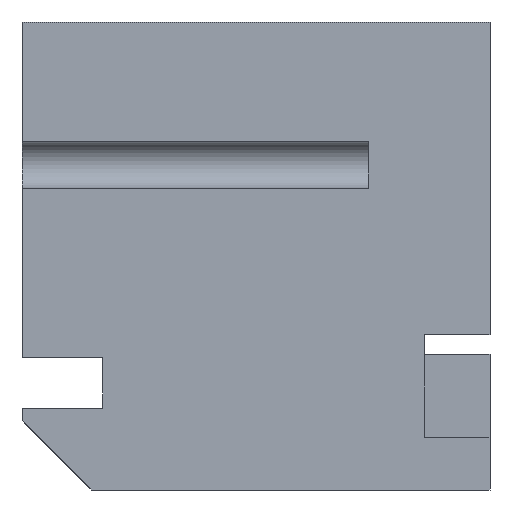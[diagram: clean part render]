
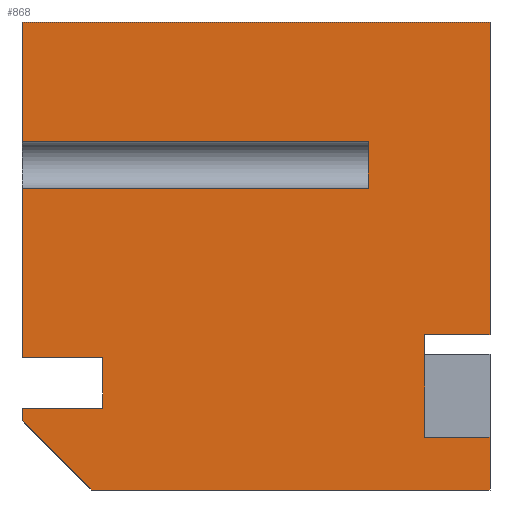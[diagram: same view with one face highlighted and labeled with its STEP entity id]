
A CAD part, front view. The second image highlights one B-rep face of the part: STEP entity #868.
In plain terms, the highlighted planar face has unit normal (0, -1, 0).
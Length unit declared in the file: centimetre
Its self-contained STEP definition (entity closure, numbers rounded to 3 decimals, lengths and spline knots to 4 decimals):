
#15 = VECTOR ( 'NONE', #972, 100. ) ;
#16 = CARTESIAN_POINT ( 'NONE',  ( 0., 0., 1000. ) ) ;
#21 = EDGE_CURVE ( 'NONE', #1506, #1370, #1288, .T. ) ;
#28 = CARTESIAN_POINT ( 'NONE',  ( 1000., 0., 1000. ) ) ;
#58 = EDGE_LOOP ( 'NONE', ( #401, #193, #862, #1095, #1038, #185, #646, #1392, #1259, #1244, #1514, #597, #1550, #1442, #85, #648, #135 ) ) ;
#85 = ORIENTED_EDGE ( 'NONE', *, *, #867, .T. ) ;
#115 = CARTESIAN_POINT ( 'NONE',  ( 1000., 0., 1000. ) ) ;
#124 = CARTESIAN_POINT ( 'NONE',  ( 0., 0., 1000. ) ) ;
#132 = CARTESIAN_POINT ( 'NONE',  ( 860.205, 0., 112.7433 ) ) ;
#135 = ORIENTED_EDGE ( 'NONE', *, *, #1249, .F. ) ;
#153 = DIRECTION ( 'NONE',  ( 0., 0., -1. ) ) ;
#157 = VECTOR ( 'NONE', #1346, 100. ) ;
#159 = EDGE_CURVE ( 'NONE', #929, #300, #1554, .T. ) ;
#170 = LINE ( 'NONE', #28, #355 ) ;
#185 = ORIENTED_EDGE ( 'NONE', *, *, #159, .F. ) ;
#192 = EDGE_CURVE ( 'NONE', #322, #691, #1499, .T. ) ;
#193 = ORIENTED_EDGE ( 'NONE', *, *, #1126, .F. ) ;
#229 = DIRECTION ( 'NONE',  ( 1., 0., 0. ) ) ;
#232 = EDGE_CURVE ( 'NONE', #1445, #300, #735, .T. ) ;
#234 = CARTESIAN_POINT ( 'NONE',  ( 1000., 0., 1000. ) ) ;
#237 = VERTEX_POINT ( 'NONE', #115 ) ;
#249 = CARTESIAN_POINT ( 'NONE',  ( 0., 0., 0. ) ) ;
#267 = VERTEX_POINT ( 'NONE', #849 ) ;
#271 = VERTEX_POINT ( 'NONE', #629 ) ;
#292 = CARTESIAN_POINT ( 'NONE',  ( 0., 0., 147.512 ) ) ;
#300 = VERTEX_POINT ( 'NONE', #498 ) ;
#304 = VERTEX_POINT ( 'NONE', #996 ) ;
#308 = CARTESIAN_POINT ( 'NONE',  ( 1000., 0., 331.7119 ) ) ;
#322 = VERTEX_POINT ( 'NONE', #1034 ) ;
#343 = EDGE_CURVE ( 'NONE', #237, #1568, #170, .T. ) ;
#353 = CARTESIAN_POINT ( 'NONE',  ( 0., 0., 1000. ) ) ;
#355 = VECTOR ( 'NONE', #153, 100. ) ;
#359 = EDGE_CURVE ( 'NONE', #929, #416, #1019, .T. ) ;
#364 = LINE ( 'NONE', #249, #1169 ) ;
#368 = LINE ( 'NONE', #234, #1324 ) ;
#374 = DIRECTION ( 'NONE',  ( 0., 1., 0. ) ) ;
#377 = VERTEX_POINT ( 'NONE', #1142 ) ;
#390 = LINE ( 'NONE', #1016, #603 ) ;
#401 = ORIENTED_EDGE ( 'NONE', *, *, #192, .F. ) ;
#416 = VERTEX_POINT ( 'NONE', #516 ) ;
#422 = CARTESIAN_POINT ( 'NONE',  ( 739.5079, 0., 1000. ) ) ;
#462 = DIRECTION ( 'NONE',  ( -1., 0., 0. ) ) ;
#470 = DIRECTION ( 'NONE',  ( 0., 0., -1. ) ) ;
#474 = AXIS2_PLACEMENT_3D ( 'NONE', #1429, #374, #1194 ) ;
#478 = CARTESIAN_POINT ( 'NONE',  ( 0., 0., 147.512 ) ) ;
#498 = CARTESIAN_POINT ( 'NONE',  ( 0., 0., 744.7937 ) ) ;
#505 = VECTOR ( 'NONE', #610, 100. ) ;
#516 = CARTESIAN_POINT ( 'NONE',  ( 739.5079, 0., 644.7536 ) ) ;
#549 = CARTESIAN_POINT ( 'NONE',  ( 860.205, 0., 112.7433 ) ) ;
#569 = EDGE_CURVE ( 'NONE', #377, #267, #1509, .T. ) ;
#584 = VECTOR ( 'NONE', #1274, 100. ) ;
#597 = ORIENTED_EDGE ( 'NONE', *, *, #569, .T. ) ;
#603 = VECTOR ( 'NONE', #774, 100. ) ;
#610 = DIRECTION ( 'NONE',  ( 0., 0., -1. ) ) ;
#613 = DIRECTION ( 'NONE',  ( 1., 0., 0. ) ) ;
#619 = VECTOR ( 'NONE', #1097, 100. ) ;
#629 = CARTESIAN_POINT ( 'NONE',  ( 1000., 0., 0. ) ) ;
#643 = EDGE_CURVE ( 'NONE', #1445, #237, #1102, .T. ) ;
#646 = ORIENTED_EDGE ( 'NONE', *, *, #359, .T. ) ;
#648 = ORIENTED_EDGE ( 'NONE', *, *, #1293, .F. ) ;
#667 = EDGE_CURVE ( 'NONE', #1370, #1123, #960, .T. ) ;
#691 = VERTEX_POINT ( 'NONE', #132 ) ;
#694 = VECTOR ( 'NONE', #907, 100. ) ;
#698 = VERTEX_POINT ( 'NONE', #1202 ) ;
#706 = CARTESIAN_POINT ( 'NONE',  ( 0., 0., 174.6637 ) ) ;
#735 = LINE ( 'NONE', #124, #505 ) ;
#774 = DIRECTION ( 'NONE',  ( 0., 0., -1. ) ) ;
#781 = CARTESIAN_POINT ( 'NONE',  ( 0., 0., 283.3347 ) ) ;
#787 = VECTOR ( 'NONE', #1042, 100. ) ;
#807 = EDGE_CURVE ( 'NONE', #267, #1366, #1063, .T. ) ;
#811 = CARTESIAN_POINT ( 'NONE',  ( 0., 0., 644.7536 ) ) ;
#829 = VECTOR ( 'NONE', #462, 100. ) ;
#843 = DIRECTION ( 'NONE',  ( 0., 0., -1. ) ) ;
#846 = CARTESIAN_POINT ( 'NONE',  ( 0., 0., 283.3347 ) ) ;
#849 = CARTESIAN_POINT ( 'NONE',  ( 0., 0., 174.6637 ) ) ;
#860 = LINE ( 'NONE', #1551, #619 ) ;
#862 = ORIENTED_EDGE ( 'NONE', *, *, #343, .F. ) ;
#867 = EDGE_CURVE ( 'NONE', #304, #271, #364, .T. ) ;
#868 = ADVANCED_FACE ( 'NONE', ( #1335 ), #1451, .F. ) ;
#877 = LINE ( 'NONE', #1342, #829 ) ;
#907 = DIRECTION ( 'NONE',  ( 0., 0., -1. ) ) ;
#929 = VERTEX_POINT ( 'NONE', #1124 ) ;
#938 = CARTESIAN_POINT ( 'NONE',  ( 0., 0., 1000. ) ) ;
#960 = LINE ( 'NONE', #846, #1494 ) ;
#962 = EDGE_CURVE ( 'NONE', #1123, #377, #390, .T. ) ;
#972 = DIRECTION ( 'NONE',  ( -1., 0., 0. ) ) ;
#990 = CARTESIAN_POINT ( 'NONE',  ( 739.5079, 0., 644.7536 ) ) ;
#996 = CARTESIAN_POINT ( 'NONE',  ( 147.512, 0., 0. ) ) ;
#999 = VECTOR ( 'NONE', #843, 100. ) ;
#1002 = CARTESIAN_POINT ( 'NONE',  ( 172.6443, 0., 283.3347 ) ) ;
#1016 = CARTESIAN_POINT ( 'NONE',  ( 172.6443, 0., 174.6637 ) ) ;
#1019 = LINE ( 'NONE', #422, #694 ) ;
#1034 = CARTESIAN_POINT ( 'NONE',  ( 860.205, 0., 331.7119 ) ) ;
#1038 = ORIENTED_EDGE ( 'NONE', *, *, #232, .T. ) ;
#1042 = DIRECTION ( 'NONE',  ( 0., 0., -1. ) ) ;
#1055 = VECTOR ( 'NONE', #1214, 100. ) ;
#1063 = LINE ( 'NONE', #938, #1483 ) ;
#1079 = VECTOR ( 'NONE', #1440, 100. ) ;
#1095 = ORIENTED_EDGE ( 'NONE', *, *, #643, .F. ) ;
#1097 = DIRECTION ( 'NONE',  ( 1., 0., 0. ) ) ;
#1102 = LINE ( 'NONE', #353, #157 ) ;
#1123 = VERTEX_POINT ( 'NONE', #1002 ) ;
#1124 = CARTESIAN_POINT ( 'NONE',  ( 739.5079, 0., 744.7937 ) ) ;
#1126 = EDGE_CURVE ( 'NONE', #1568, #322, #877, .T. ) ;
#1142 = CARTESIAN_POINT ( 'NONE',  ( 172.6443, 0., 174.6637 ) ) ;
#1169 = VECTOR ( 'NONE', #613, 100. ) ;
#1194 = DIRECTION ( 'NONE',  ( 0., 0., 1. ) ) ;
#1198 = LINE ( 'NONE', #990, #1055 ) ;
#1202 = CARTESIAN_POINT ( 'NONE',  ( 1000., 0., 112.7433 ) ) ;
#1214 = DIRECTION ( 'NONE',  ( -1., 0., 0. ) ) ;
#1219 = EDGE_CURVE ( 'NONE', #416, #1506, #1198, .T. ) ;
#1226 = CARTESIAN_POINT ( 'NONE',  ( 739.5079, 0., 744.7937 ) ) ;
#1244 = ORIENTED_EDGE ( 'NONE', *, *, #667, .T. ) ;
#1249 = EDGE_CURVE ( 'NONE', #691, #698, #860, .T. ) ;
#1259 = ORIENTED_EDGE ( 'NONE', *, *, #21, .T. ) ;
#1274 = DIRECTION ( 'NONE',  ( -1., 0., 0. ) ) ;
#1288 = LINE ( 'NONE', #1552, #999 ) ;
#1293 = EDGE_CURVE ( 'NONE', #698, #271, #368, .T. ) ;
#1308 = DIRECTION ( 'NONE',  ( 0., 0., -1. ) ) ;
#1324 = VECTOR ( 'NONE', #470, 100. ) ;
#1334 = EDGE_CURVE ( 'NONE', #1366, #304, #1559, .T. ) ;
#1335 = FACE_OUTER_BOUND ( 'NONE', #58, .T. ) ;
#1342 = CARTESIAN_POINT ( 'NONE',  ( 860.205, 0., 331.7119 ) ) ;
#1346 = DIRECTION ( 'NONE',  ( 1., 0., 0. ) ) ;
#1366 = VERTEX_POINT ( 'NONE', #292 ) ;
#1370 = VERTEX_POINT ( 'NONE', #781 ) ;
#1392 = ORIENTED_EDGE ( 'NONE', *, *, #1219, .T. ) ;
#1429 = CARTESIAN_POINT ( 'NONE',  ( 0., 0., 1000. ) ) ;
#1440 = DIRECTION ( 'NONE',  ( 0.707, 0., -0.707 ) ) ;
#1442 = ORIENTED_EDGE ( 'NONE', *, *, #1334, .T. ) ;
#1445 = VERTEX_POINT ( 'NONE', #16 ) ;
#1451 = PLANE ( 'NONE',  #474 ) ;
#1483 = VECTOR ( 'NONE', #1308, 100. ) ;
#1494 = VECTOR ( 'NONE', #229, 100. ) ;
#1499 = LINE ( 'NONE', #549, #787 ) ;
#1506 = VERTEX_POINT ( 'NONE', #811 ) ;
#1509 = LINE ( 'NONE', #706, #584 ) ;
#1514 = ORIENTED_EDGE ( 'NONE', *, *, #962, .T. ) ;
#1550 = ORIENTED_EDGE ( 'NONE', *, *, #807, .T. ) ;
#1551 = CARTESIAN_POINT ( 'NONE',  ( 860.205, 0., 112.7433 ) ) ;
#1552 = CARTESIAN_POINT ( 'NONE',  ( 0., 0., 1000. ) ) ;
#1554 = LINE ( 'NONE', #1226, #15 ) ;
#1559 = LINE ( 'NONE', #478, #1079 ) ;
#1568 = VERTEX_POINT ( 'NONE', #308 ) ;
